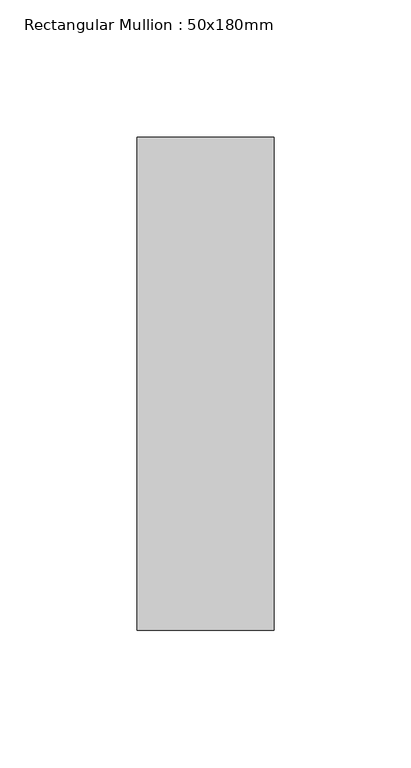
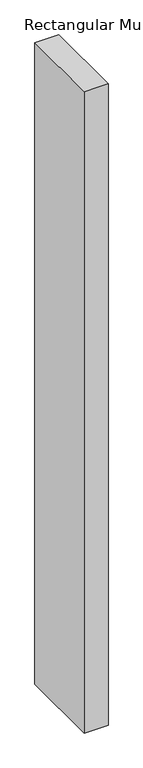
"""IFC4 building model written with IfcOpenShell, lengths in millimetres: member geometry, Rectangular Mullion : 50x180mm."""

from ifc_helpers import new_model, si_unit, frame, origin, place, context, project, spatial, polyline, outline, extrude, source, transform, mapped, element, save


def rectangular_mullion_50x180mm_008bf3d4(model_context):
    return source(origin(), model_context, "Body", "SweptSolid", [
        extrude(outline(polyline([(0.0, 90.0), (0.0, -90.0), (-50.0, -90.0), (-50.0, 90.0), (0.0, 90.0)])), frame((0.0, 0.0, -1426.425), z_axis=(0.0, 0.0, 1.0), x_axis=(1.0, 0.0, 0.0)), (0.0, 0.0, 1.0), 1426.425),
    ])


if __name__ == "__main__":
    model = new_model("IFC4")
    model_context = context("Model", 3, world=origin())
    ifc_project = project(units=[si_unit("LENGTHUNIT", "METRE", prefix="MILLI")], contexts=[model_context])
    site = spatial("IfcSite", under=ifc_project)
    building = spatial("IfcBuilding", under=site)
    placement = place(None, origin())
    rectangular_mullion_50x180mm_shape = rectangular_mullion_50x180mm_008bf3d4(model_context)
    element("IfcMember", 1, ObjectType="Rectangular Mullion : 50x180mm", at=placement, inside=building, context=model_context, shape_type="MappedRepresentation", body=[
        mapped(rectangular_mullion_50x180mm_shape, transform((0.0, 0.0, 0.0), x_axis=(1.0, 0.0, 0.0), y_axis=(0.0, 1.0, 0.0), z_axis=(0.0, 0.0, 1.0))),
    ])
    save(model, "model.ifc")
